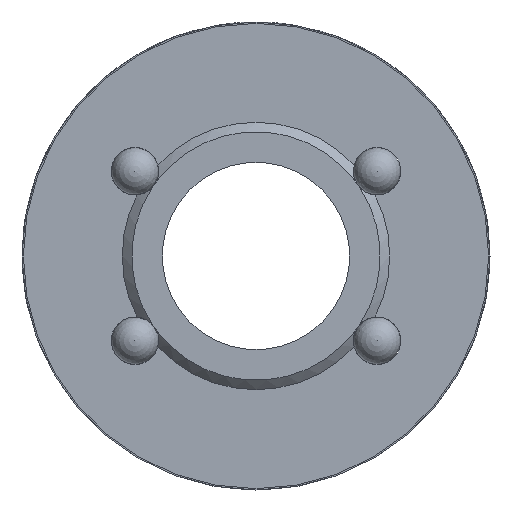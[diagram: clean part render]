
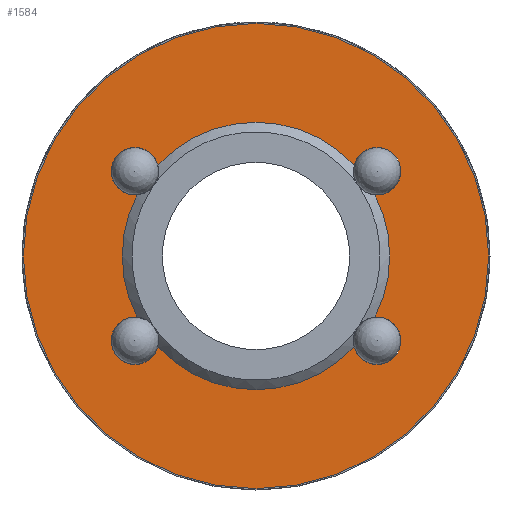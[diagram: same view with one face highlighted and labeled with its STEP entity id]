
A CAD part, left-side view. The second image highlights one B-rep face of the part: STEP entity #1584.
In plain terms, the highlighted planar face has unit normal (-1, 0, 0).
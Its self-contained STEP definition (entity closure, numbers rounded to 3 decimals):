
#54=PLANE('',#1722);
#605=ORIENTED_EDGE('',*,*,#976,.F.);
#606=ORIENTED_EDGE('',*,*,#977,.T.);
#607=ORIENTED_EDGE('',*,*,#891,.F.);
#608=ORIENTED_EDGE('',*,*,#956,.T.);
#609=ORIENTED_EDGE('',*,*,#973,.F.);
#610=ORIENTED_EDGE('',*,*,#978,.T.);
#611=ORIENTED_EDGE('',*,*,#867,.F.);
#612=ORIENTED_EDGE('',*,*,#928,.T.);
#613=ORIENTED_EDGE('',*,*,#974,.T.);
#867=EDGE_CURVE('',#1092,#1093,#1241,.T.);
#891=EDGE_CURVE('',#1116,#1117,#1243,.T.);
#928=EDGE_CURVE('',#1092,#1143,#1248,.T.);
#956=EDGE_CURVE('',#1116,#1159,#1255,.T.);
#973=EDGE_CURVE('',#1175,#1159,#1259,.T.);
#974=EDGE_CURVE('',#1176,#1176,#1260,.T.);
#976=EDGE_CURVE('',#1178,#1143,#1262,.T.);
#977=EDGE_CURVE('',#1178,#1117,#1263,.T.);
#978=EDGE_CURVE('',#1175,#1093,#1264,.T.);
#1092=VERTEX_POINT('',#2315);
#1093=VERTEX_POINT('',#2317);
#1116=VERTEX_POINT('',#2394);
#1117=VERTEX_POINT('',#2396);
#1143=VERTEX_POINT('',#2674);
#1159=VERTEX_POINT('',#2919);
#1175=VERTEX_POINT('',#2979);
#1176=VERTEX_POINT('',#2983);
#1178=VERTEX_POINT('',#2988);
#1241=CIRCLE('',#1685,10.);
#1243=CIRCLE('',#1688,10.);
#1248=CIRCLE('',#1699,1.778);
#1255=CIRCLE('',#1712,1.778);
#1259=CIRCLE('',#1718,10.);
#1260=CIRCLE('',#1720,17.4);
#1262=CIRCLE('',#1723,10.);
#1263=CIRCLE('',#1724,1.778);
#1264=CIRCLE('',#1725,1.778);
#1351=EDGE_LOOP('',(#605,#606,#607,#608,#609,#610,#611,#612));
#1352=EDGE_LOOP('',(#613));
#1479=FACE_BOUND('',#1351,.T.);
#1480=FACE_BOUND('',#1352,.T.);
#1584=ADVANCED_FACE('',(#1479,#1480),#54,.F.);
#1685=AXIS2_PLACEMENT_3D('',#2316,#1884,#1885);
#1688=AXIS2_PLACEMENT_3D('',#2395,#1902,#1903);
#1699=AXIS2_PLACEMENT_3D('',#2675,#1936,#1937);
#1712=AXIS2_PLACEMENT_3D('',#2920,#1968,#1969);
#1718=AXIS2_PLACEMENT_3D('',#2980,#1986,#1987);
#1720=AXIS2_PLACEMENT_3D('',#2982,#1990,#1991);
#1722=AXIS2_PLACEMENT_3D('',#2986,#1994,#1995);
#1723=AXIS2_PLACEMENT_3D('',#2987,#1996,#1997);
#1724=AXIS2_PLACEMENT_3D('',#2989,#1998,#1999);
#1725=AXIS2_PLACEMENT_3D('',#2990,#2000,#2001);
#1884=DIRECTION('',(-1.,0.,0.));
#1885=DIRECTION('',(0.,0.,1.));
#1902=DIRECTION('',(-1.,0.,0.));
#1903=DIRECTION('',(0.,0.,1.));
#1936=DIRECTION('',(1.,0.,0.));
#1937=DIRECTION('',(0.,-0.819,0.574));
#1968=DIRECTION('',(1.,0.,0.));
#1969=DIRECTION('',(0.,0.819,-0.574));
#1986=DIRECTION('',(-1.,0.,0.));
#1987=DIRECTION('',(0.,0.,1.));
#1990=DIRECTION('',(-1.,0.,0.));
#1991=DIRECTION('',(0.,0.,1.));
#1994=DIRECTION('',(1.,0.,0.));
#1995=DIRECTION('',(0.,0.,-1.));
#1996=DIRECTION('',(-1.,0.,0.));
#1997=DIRECTION('',(0.,0.,1.));
#1998=DIRECTION('',(1.,0.,0.));
#1999=DIRECTION('',(0.,-0.819,-0.574));
#2000=DIRECTION('',(1.,0.,0.));
#2001=DIRECTION('',(0.,0.819,0.574));
#2315=CARTESIAN_POINT('',(-28.,7.334,-6.798));
#2316=CARTESIAN_POINT('',(-28.,0.,0.));
#2317=CARTESIAN_POINT('',(-28.,-7.334,-6.798));
#2394=CARTESIAN_POINT('',(-28.,-7.334,6.798));
#2395=CARTESIAN_POINT('',(-28.,0.,0.));
#2396=CARTESIAN_POINT('',(-28.,7.334,6.798));
#2674=CARTESIAN_POINT('',(-28.,8.896,-4.567));
#2675=CARTESIAN_POINT('',(-28.,9.052,-6.338));
#2919=CARTESIAN_POINT('',(-28.,-8.896,4.567));
#2920=CARTESIAN_POINT('',(-28.,-9.052,6.338));
#2979=CARTESIAN_POINT('',(-28.,-8.896,-4.567));
#2980=CARTESIAN_POINT('',(-28.,0.,0.));
#2982=CARTESIAN_POINT('',(-28.,0.,0.));
#2983=CARTESIAN_POINT('',(-28.,0.,17.4));
#2986=CARTESIAN_POINT('',(-28.,17.4,0.));
#2987=CARTESIAN_POINT('',(-28.,0.,0.));
#2988=CARTESIAN_POINT('',(-28.,8.896,4.567));
#2989=CARTESIAN_POINT('',(-28.,9.052,6.338));
#2990=CARTESIAN_POINT('',(-28.,-9.052,-6.338));
